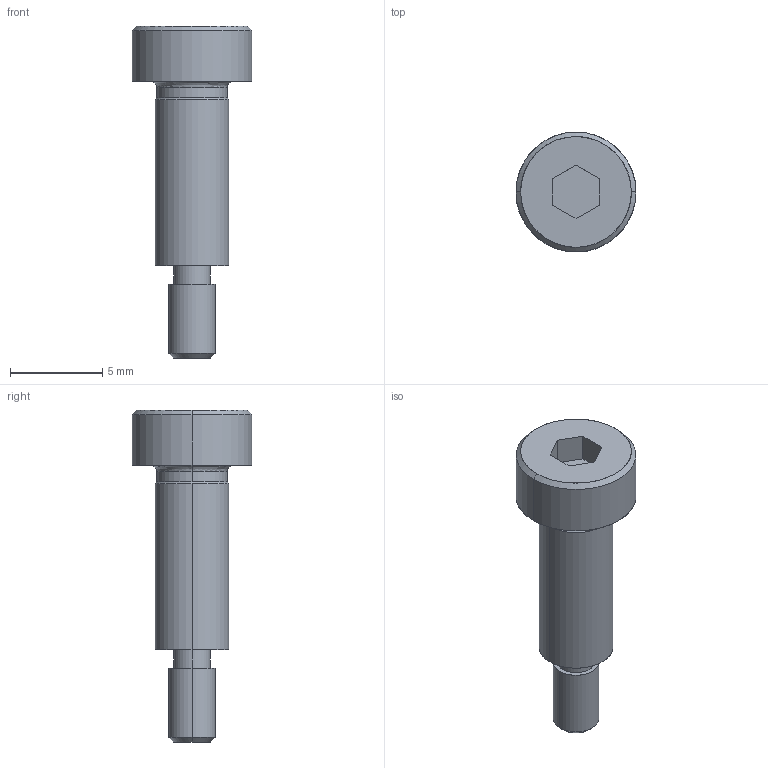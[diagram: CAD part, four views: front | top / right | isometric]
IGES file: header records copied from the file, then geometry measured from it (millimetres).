
Global section: file name: E:\UnigraphicsGraphicData\MISUMI_PRESS-PARTS\IGES\3d_msb4-10_00566_r00.igs; native system: NX V5.0; preprocessor: UGS NX IGES V5.0; author: MISUMI; date: 20110105.161514; units: millimetre
Bounding box: 6.5 x 6.5 x 18 mm (x, y, z)
Surface area: 302.8 mm2 (no closed solid volume)
Topology: 0 solids, 0 shells, 30 faces, 172 edges, 172 vertices
Faces by surface type: bspline 30
